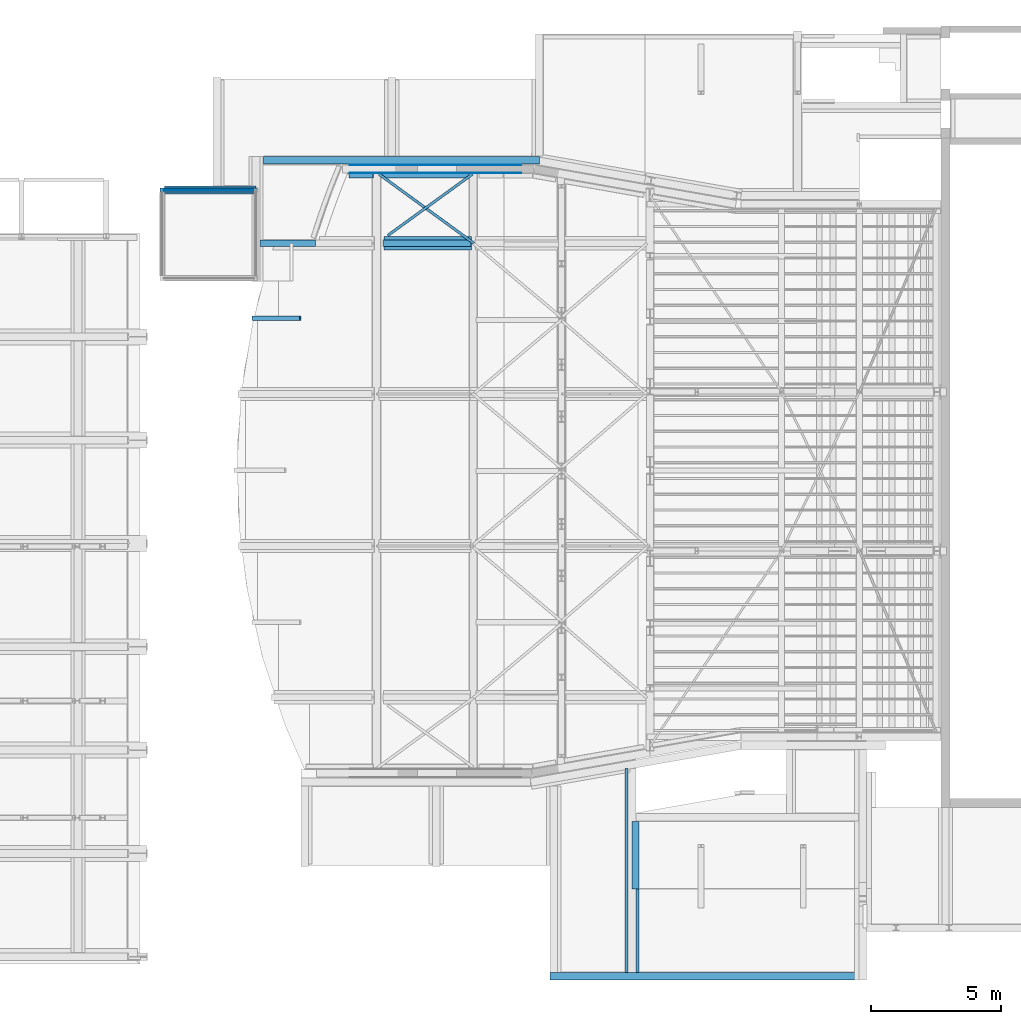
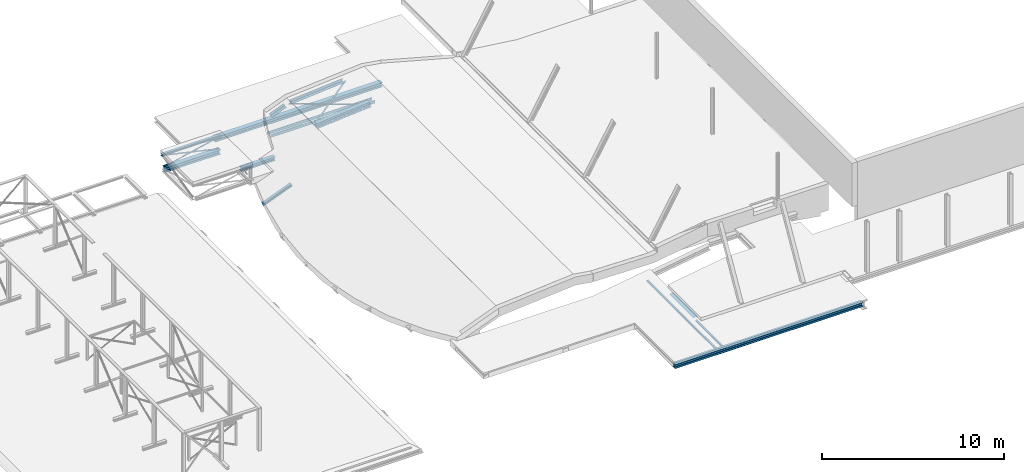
# One storey, part 23 of 50: 18 beams.
"""IFC2X3 building model written with IfcOpenShell, lengths in millimetres."""

from ifc_helpers import new_model, entity, si_unit, converted_unit, derived_unit, direction, frame, frame_2d, origin, origin_2d_with_axis, place, context, subcontext, project, spatial, polyline, circle_curve, parameter, trimmed, segment, composite_curve, rectangle, i_section, outline, extrude, source, transform, mapped, material, material_list, type_object, type_shapes, element, save


model = new_model("IFC2X3")

# Units and contexts
model_context = context("Model", 3, precision=0.01, world=origin(), true_north=direction((6.12303176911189e-17, 1.0)))
body_context = subcontext(model_context, "Body", "Model", "MODEL_VIEW")
ifc_project = project(units=[si_unit("LENGTHUNIT", "METRE", prefix="MILLI"), si_unit("AREAUNIT", "SQUARE_METRE", prefix="MILLI"), si_unit("VOLUMEUNIT", "CUBIC_METRE"), converted_unit("PLANEANGLEUNIT", "DEGREE", entity("IfcRatioMeasure", 0.0174532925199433), si_unit("PLANEANGLEUNIT", "RADIAN"), dimensions=[0, 0, 0, 0, 0, 0, 0]), si_unit("MASSUNIT", "GRAM", prefix="KILO"), derived_unit("MASSDENSITYUNIT", [(si_unit("MASSUNIT", "GRAM", prefix="KILO"), 1), (si_unit("LENGTHUNIT", "METRE"), -3)]), derived_unit("MOMENTOFINERTIAUNIT", [(si_unit("LENGTHUNIT", "METRE"), 4)]), si_unit("TIMEUNIT", "SECOND"), si_unit("FREQUENCYUNIT", "HERTZ"), si_unit("THERMODYNAMICTEMPERATUREUNIT", "DEGREE_CELSIUS"), derived_unit("THERMALTRANSMITTANCEUNIT", [(si_unit("MASSUNIT", "GRAM", prefix="KILO"), 1), (si_unit("THERMODYNAMICTEMPERATUREUNIT", "KELVIN"), -1), (si_unit("TIMEUNIT", "SECOND"), -3)]), derived_unit("VOLUMETRICFLOWRATEUNIT", [(si_unit("LENGTHUNIT", "METRE"), 3), (si_unit("TIMEUNIT", "SECOND"), -1)]), si_unit("ELECTRICCURRENTUNIT", "AMPERE"), si_unit("ELECTRICVOLTAGEUNIT", "VOLT"), si_unit("POWERUNIT", "WATT"), si_unit("FORCEUNIT", "NEWTON", prefix="KILO"), si_unit("ILLUMINANCEUNIT", "LUX"), si_unit("LUMINOUSFLUXUNIT", "LUMEN"), si_unit("LUMINOUSINTENSITYUNIT", "CANDELA"), derived_unit("USERDEFINED", [(si_unit("MASSUNIT", "GRAM", prefix="KILO"), -1), (si_unit("LENGTHUNIT", "METRE"), -2), (si_unit("TIMEUNIT", "SECOND"), 3), (si_unit("LUMINOUSFLUXUNIT", "LUMEN"), 1)]), derived_unit("LINEARVELOCITYUNIT", [(si_unit("LENGTHUNIT", "METRE"), 1), (si_unit("TIMEUNIT", "SECOND"), -1)]), si_unit("PRESSUREUNIT", "PASCAL"), derived_unit("USERDEFINED", [(si_unit("LENGTHUNIT", "METRE"), -2), (si_unit("MASSUNIT", "GRAM", prefix="KILO"), 1), (si_unit("TIMEUNIT", "SECOND"), -2)]), derived_unit("LINEARFORCEUNIT", [(si_unit("MASSUNIT", "GRAM", prefix="KILO"), 1), (si_unit("LENGTHUNIT", "METRE"), 1), (si_unit("TIMEUNIT", "SECOND"), -2), (si_unit("LENGTHUNIT", "METRE"), -1)]), derived_unit("PLANARFORCEUNIT", [(si_unit("MASSUNIT", "GRAM", prefix="KILO"), 1), (si_unit("LENGTHUNIT", "METRE"), 1), (si_unit("TIMEUNIT", "SECOND"), -2), (si_unit("LENGTHUNIT", "METRE"), -2)])], contexts=[model_context])

# Site, building, storey
site_placement = place(None, origin())
site = spatial("IfcSite", under=ifc_project, at=site_placement, Name="Theater aan de Parade", CompositionType="ELEMENT")
building_placement = place(site_placement, origin())
building = spatial("IfcBuilding", under=site, at=building_placement, Name="Theater aan de Parade", CompositionType="ELEMENT")
storey_placement = place(building_placement, frame((0.0, 0.0, 15820.0)))
storey = spatial("IfcBuildingStorey", under=building, at=storey_placement, Name="04 vierde verdieping", CompositionType="ELEMENT", Elevation=15820.0)

# Beams
ifc_material_1 = material(Name="00_PBT_MAT_staal_S355")
beam_type_1 = type_object("IfcBeamType", Name="28_PBT_SF_staal_H-profiel:S355_HE180A", PredefinedType="NOTDEFINED")
beam_1_placement = place(storey_placement, frame((40769.287115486, 38315.7620085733, -217.768607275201), z_axis=(-0.363251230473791, 0.0, 0.931691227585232), x_axis=(0.931691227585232, 0.0, 0.363251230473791)))
element("IfcBeam", 1, at=beam_1_placement, inside=storey, type_object=beam_type_1, material=ifc_material_1, Name="28_PBT_SF_staal_H-profiel:S355_HE180A", ObjectType="28_PBT_SF_staal_H-profiel:S355_HE180A", context=body_context, shape_type="SweptSolid", body=[
    extrude(i_section(OverallWidth=180.000000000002, OverallDepth=170.999999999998, WebThickness=6.00000000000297, FlangeThickness=9.49999999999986, FilletRadius=14.9999999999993, at=frame_2d((2.02504679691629e-12, 2.16715534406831e-12), x_axis=(0.0, 1.0))), frame((0.0, 0.0, -205.499999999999), z_axis=(1.0, 0.0, 0.0), x_axis=(0.0, 0.0, -1.0)), (0.0, 0.0, 1.0), 1960.00000000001),
])
beam_type_2 = type_object("IfcBeamType", Name="28_PBT_SF_staal_H-profiel (void):S355_HE300B", PredefinedType="NOTDEFINED")
beam_2_placement = place(storey_placement, frame((40963.8581275, 44395.0, 0.0)))
element("IfcBeam", 2, at=beam_2_placement, inside=storey, type_object=beam_type_2, material=ifc_material_1, Name="28_PBT_SF_staal_H-profiel (void):S355_HE300B", ObjectType="28_PBT_SF_staal_H-profiel (void):S355_HE300B", context=body_context, shape_type="SweptSolid", body=[
    extrude(i_section(OverallWidth=300.000000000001, OverallDepth=300.000000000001, WebThickness=10.9999999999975, FlangeThickness=18.9999999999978, FilletRadius=27.0000000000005, at=frame_2d((0.0, 0.0), x_axis=(0.0, 1.0))), frame((287.700000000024, 0.0, 165.0), z_axis=(1.0, 0.0, 0.0), x_axis=(0.0, 0.0, -1.0)), (0.0, 0.0, 1.0), 10632.3000471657),
])
beam_3_placement = place(storey_placement, frame((37439.358130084, 43250.0, 0.0)))
element("IfcBeam", 3, at=beam_3_placement, inside=storey, type_object=beam_type_2, material=ifc_material_1, Name="28_PBT_SF_staal_H-profiel (void):S355_HE300B", ObjectType="28_PBT_SF_staal_H-profiel (void):S355_HE300B", context=body_context, shape_type="SweptSolid", body=[
    extrude(outline(composite_curve([segment(polyline([(131.0, -150.0), (150.0, -150.0)]), True, "CONTINUOUS"), segment(polyline([(150.0, -150.0), (150.0, 150.0)]), True, "CONTINUOUS"), segment(polyline([(150.0, 150.0), (131.0, 150.0)]), True, "CONTINUOUS"), segment(polyline([(131.0, 150.0), (131.0, 32.5000000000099)]), True, "CONTINUOUS"), segment(trimmed(circle_curve(frame_2d((104.0, 32.5000000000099), x_axis=(1.0, 0.0)), 27.0000000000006), [parameter(270.0)], [parameter(0.0)], True, "PARAMETER"), False, "CONTINUOUS"), segment(polyline([(104.0, 5.50000000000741), (-104.0, 5.50000000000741)]), True, "CONTINUOUS"), segment(trimmed(circle_curve(frame_2d((-104.0, 32.5000000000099), x_axis=(0.0, -1.0)), 27.0000000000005), [parameter(270.0)], [parameter(0.0)], True, "PARAMETER"), False, "CONTINUOUS"), segment(polyline([(-131.0, 32.5000000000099), (-131.0, 150.0)]), True, "CONTINUOUS"), segment(polyline([(-131.0, 150.0), (-150.0, 150.0)]), True, "CONTINUOUS"), segment(polyline([(-150.0, 150.0), (-150.0, -150.0)]), True, "CONTINUOUS"), segment(polyline([(-150.0, -150.0), (-131.0, -150.0)]), True, "CONTINUOUS"), segment(polyline([(-131.0, -150.0), (-131.0, -32.4999999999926)]), True, "CONTINUOUS"), segment(trimmed(circle_curve(frame_2d((-104.0, -32.4999999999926), x_axis=(-1.0, 0.0)), 27.0000000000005), [parameter(270.0)], [parameter(0.0)], True, "PARAMETER"), False, "CONTINUOUS"), segment(polyline([(-104.0, -5.49999999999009), (104.0, -5.49999999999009)]), True, "CONTINUOUS"), segment(trimmed(circle_curve(frame_2d((104.0, -32.4999999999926), x_axis=(0.0, 1.0)), 27.0000000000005), [parameter(270.0)], [parameter(0.0)], True, "PARAMETER"), False, "CONTINUOUS"), segment(polyline([(131.0, -32.4999999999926), (131.0, -150.0)]), True, "CONTINUOUS")], self_intersect=False)), frame((0.0, 0.0, 165.0), z_axis=(1.0, 0.0, 0.0), x_axis=(0.0, 0.0, -1.0)), (0.0, 0.0, 1.0), 3524.49999741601),
])
beam_type_3 = type_object("IfcBeamType", Name="28_PBT_SF_staal_H-profiel (void):S355_HE280B", PredefinedType="NOTDEFINED")
beam_4_placement = place(storey_placement, frame((52289.5687866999, 12955.0, 0.0)))
element("IfcBeam", 4, at=beam_4_placement, inside=storey, type_object=beam_type_3, material=ifc_material_1, Name="28_PBT_SF_staal_H-profiel (void):S355_HE280B", ObjectType="28_PBT_SF_staal_H-profiel (void):S355_HE280B", context=body_context, shape_type="SweptSolid", body=[
    extrude(outline(composite_curve([segment(polyline([(122.0, -140.0), (140.0, -140.0)]), True, "CONTINUOUS"), segment(polyline([(140.0, -140.0), (140.0, 140.0)]), True, "CONTINUOUS"), segment(polyline([(140.0, 140.0), (122.0, 140.0)]), True, "CONTINUOUS"), segment(polyline([(122.0, 140.0), (122.0, 29.2500000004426)]), True, "CONTINUOUS"), segment(trimmed(circle_curve(frame_2d((98.0, 29.2500000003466), x_axis=(1.0, 0.0)), 24.0000000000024), [parameter(270.00000000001)], [parameter(0.0)], True, "PARAMETER"), False, "CONTINUOUS"), segment(polyline([(98.0, 5.25000000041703), (-98.0, 5.2499999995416)]), True, "CONTINUOUS"), segment(trimmed(circle_curve(frame_2d((-98.0, 29.2499999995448), x_axis=(0.0, -1.0)), 24.0000000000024), [parameter(270.00000000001)], [parameter(0.0)], True, "PARAMETER"), False, "CONTINUOUS"), segment(polyline([(-122.0, 29.2499999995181), (-122.0, 140.0)]), True, "CONTINUOUS"), segment(polyline([(-122.0, 140.0), (-140.0, 140.0)]), True, "CONTINUOUS"), segment(polyline([(-140.0, 140.0), (-140.0, -140.0)]), True, "CONTINUOUS"), segment(polyline([(-140.0, -140.0), (-122.0, -140.0)]), True, "CONTINUOUS"), segment(polyline([(-122.0, -140.0), (-122.0, -29.2500000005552)]), True, "CONTINUOUS"), segment(trimmed(circle_curve(frame_2d((-98.0, -29.2500000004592), x_axis=(-1.0, 0.0)), 24.000000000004), [parameter(270.000000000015)], [parameter(0.0)], True, "PARAMETER"), False, "CONTINUOUS"), segment(polyline([(-98.0, -5.25000000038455), (98.0, -5.24999999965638)]), True, "CONTINUOUS"), segment(trimmed(circle_curve(frame_2d((98.0, -29.2499999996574), x_axis=(0.0, 1.0)), 24.0000000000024), [parameter(270.00000000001)], [parameter(0.0)], True, "PARAMETER"), False, "CONTINUOUS"), segment(polyline([(122.0, -29.2499999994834), (122.0, -140.0)]), True, "CONTINUOUS")], self_intersect=False)), frame((0.0, 0.0, 155.0), z_axis=(1.0, 0.0, 0.0), x_axis=(0.0, 0.0, -1.0)), (0.0, 0.0, 1.0), 11953.2332888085),
])
beam_type_4 = type_object("IfcBeamType", Name="28_PBT_SF_staal_L-profiel:S355_L200x200x20", PredefinedType="NOTDEFINED")
beam_5_placement = place(storey_placement, frame((45768.8631319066, 43853.2, 1692.76368893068), z_axis=(-0.0796770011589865, 0.0, 0.996820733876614), x_axis=(0.996820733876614, 0.0, 0.0796770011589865)))
element("IfcBeam", 5, at=beam_5_placement, inside=storey, type_object=beam_type_4, material=ifc_material_1, Name="28_PBT_SF_staal_L-profiel:S355_L200x200x20", ObjectType="28_PBT_SF_staal_L-profiel:S355_L200x200x20", context=body_context, shape_type="SweptSolid", body=[
    extrude(outline(composite_curve([segment(polyline([(64.5555555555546, -124.444444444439), (75.5555555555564, -124.444444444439)]), True, "CONTINUOUS"), segment(polyline([(75.5555555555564, -124.444444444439), (75.5555555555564, 75.5555555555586)]), True, "CONTINUOUS"), segment(polyline([(75.5555555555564, 75.5555555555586), (-124.444444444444, 75.5555555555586)]), True, "CONTINUOUS"), segment(polyline([(-124.444444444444, 75.5555555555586), (-124.444444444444, 64.5555555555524)]), True, "CONTINUOUS"), segment(trimmed(circle_curve(frame_2d((-115.44444444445, 64.5555555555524), x_axis=(-1.0, 0.0)), 8.99999999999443), [parameter(0.0)], [parameter(90.0000000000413)], True, "PARAMETER"), True, "CONTINUOUS"), segment(polyline([(-115.444444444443, 55.5555555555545), (37.5555555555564, 55.5555555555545)]), True, "CONTINUOUS"), segment(trimmed(circle_curve(frame_2d((37.5555555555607, 37.5555555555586), x_axis=(0.0, 1.0)), 17.9999999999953), [parameter(269.999999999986)], [parameter(0.0)], True, "PARAMETER"), False, "CONTINUOUS"), segment(polyline([(55.5555555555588, 37.5555555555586), (55.5555555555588, -115.444444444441)]), True, "CONTINUOUS"), segment(trimmed(circle_curve(frame_2d((64.5555555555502, -115.444444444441), x_axis=(-1.0, 0.0)), 8.99999999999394), [parameter(0.0)], [parameter(90.0000000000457)], True, "PARAMETER"), True, "CONTINUOUS")], self_intersect=False)), frame((0.0, -18.7555555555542, -319.444444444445), z_axis=(1.0, 0.0, 0.0), x_axis=(0.0, 0.0, -1.0)), (0.0, 0.0, 1.0), 3360.00000000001),
])
beam_6_placement = place(storey_placement, frame((44414.0972034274, 43853.1999999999, 1203.28346457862), z_axis=(-0.363251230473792, 0.0, 0.931691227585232), x_axis=(0.931691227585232, 0.0, 0.363251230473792)))
element("IfcBeam", 6, at=beam_6_placement, inside=storey, type_object=beam_type_4, material=ifc_material_1, Name="28_PBT_SF_staal_L-profiel:S355_L200x200x20", ObjectType="28_PBT_SF_staal_L-profiel:S355_L200x200x20", context=body_context, shape_type="SweptSolid", body=[
    extrude(outline(composite_curve([segment(polyline([(64.5555555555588, -124.444444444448), (75.5555555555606, -124.444444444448)]), True, "CONTINUOUS"), segment(polyline([(75.5555555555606, -124.444444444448), (75.5555555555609, 75.5555555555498)]), True, "CONTINUOUS"), segment(polyline([(75.5555555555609, 75.5555555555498), (-124.444444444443, 75.5555555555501)]), True, "CONTINUOUS"), segment(polyline([(-124.444444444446, 75.5555555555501), (-124.444444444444, 64.5555555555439)]), True, "CONTINUOUS"), segment(trimmed(circle_curve(frame_2d((-115.444444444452, 64.5555555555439), x_axis=(-1.0, 0.0)), 8.99999999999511), [parameter(0.0)], [parameter(90.0000000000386)], True, "PARAMETER"), True, "CONTINUOUS"), segment(polyline([(-115.444444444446, 55.5555555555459), (37.5555555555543, 55.5555555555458)]), True, "CONTINUOUS"), segment(trimmed(circle_curve(frame_2d((37.5555555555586, 37.5555555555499), x_axis=(0.0, 1.0)), 17.9999999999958), [parameter(269.999999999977)], [parameter(0.0)], True, "PARAMETER"), False, "CONTINUOUS"), segment(polyline([(55.5555555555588, 37.5555555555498), (55.5555555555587, -115.44444444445)]), True, "CONTINUOUS"), segment(trimmed(circle_curve(frame_2d((64.5555555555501, -115.44444444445), x_axis=(-1.0, 0.0)), 8.99999999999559), [parameter(0.0)], [parameter(90.0000000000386)], True, "PARAMETER"), True, "CONTINUOUS")], self_intersect=False)), frame((0.0, -18.7555555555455, -319.444444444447), z_axis=(1.0, 0.0, 0.0), x_axis=(0.0, 0.0, -1.0)), (0.0, 0.0, 1.0), 1000.00000000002),
])
ifc_material_2 = material(Name="00_PBT_MAT_staal_S235")
beam_type_5 = type_object("IfcBeamType", Name="28_PBT_SF_staal_koker:S235_K80x120x6.3", PredefinedType="NOTDEFINED")
beam_7_placement = place(storey_placement, frame((55180.0, 20961.8498889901, 0.0), z_axis=(0.0, 0.0, 1.0), x_axis=(0.0, -1.0, 0.0)))
element("IfcBeam", 7, at=beam_7_placement, inside=storey, type_object=beam_type_5, material=ifc_material_2, Name="28_PBT_SF_staal_koker:S235_K80x120x6.3", ObjectType="28_PBT_SF_staal_koker:S235_K80x120x6.3", context=body_context, shape_type="SweptSolid", body=[
    extrude(outline(composite_curve([segment(polyline([(-30.5500000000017, -60.0), (30.5499999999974, -60.0)]), True, "CONTINUOUS"), segment(trimmed(circle_curve(frame_2d((30.5499999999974, -50.5500000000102), x_axis=(0.0, 1.0)), 9.45), [parameter(180.0)], [parameter(270.0)], True, "PARAMETER"), True, "CONTINUOUS"), segment(polyline([(40.0, -50.5500000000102), (40.0, 50.5499999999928)]), True, "CONTINUOUS"), segment(trimmed(circle_curve(frame_2d((30.5499999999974, 50.5499999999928), x_axis=(0.0, 1.0)), 9.45), [parameter(270.0)], [parameter(360.0)], True, "PARAMETER"), True, "CONTINUOUS"), segment(polyline([(30.5499999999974, 60.0), (-30.5500000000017, 60.0)]), True, "CONTINUOUS"), segment(trimmed(circle_curve(frame_2d((-30.5500000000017, 50.5499999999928), x_axis=(0.0, 1.0)), 9.45), [parameter(0.0)], [parameter(90.0000000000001)], True, "PARAMETER"), True, "CONTINUOUS"), segment(polyline([(-40.0, 50.5499999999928), (-40.0, -50.5500000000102)]), True, "CONTINUOUS"), segment(trimmed(circle_curve(frame_2d((-30.5500000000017, -50.5500000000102), x_axis=(0.0, 1.0)), 9.45), [parameter(90.0)], [parameter(180.0)], True, "PARAMETER"), True, "CONTINUOUS")], self_intersect=False), holes=[composite_curve([segment(polyline([(33.6999999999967, 47.3999999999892), (33.6999999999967, -47.4000000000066)]), True, "CONTINUOUS"), segment(trimmed(circle_curve(frame_2d((27.3999999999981, -47.4000000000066), x_axis=(0.0, 1.0)), 6.3), [parameter(180.0)], [parameter(270.0)], True, "PARAMETER"), False, "CONTINUOUS"), segment(polyline([(27.3999999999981, -53.7000000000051), (-27.4000000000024, -53.7000000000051)]), True, "CONTINUOUS"), segment(trimmed(circle_curve(frame_2d((-27.4000000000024, -47.4000000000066), x_axis=(0.0, 1.0)), 6.3), [parameter(90.0)], [parameter(180.0)], True, "PARAMETER"), False, "CONTINUOUS"), segment(polyline([(-33.7000000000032, -47.4000000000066), (-33.7000000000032, 47.3999999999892)]), True, "CONTINUOUS"), segment(trimmed(circle_curve(frame_2d((-27.4000000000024, 47.3999999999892), x_axis=(0.0, 1.0)), 6.3), [parameter(4.07110999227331e-13)], [parameter(90.0000000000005)], True, "PARAMETER"), False, "CONTINUOUS"), segment(polyline([(-27.4000000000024, 53.6999999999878), (27.3999999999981, 53.6999999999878)]), True, "CONTINUOUS"), segment(trimmed(circle_curve(frame_2d((27.3999999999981, 47.3999999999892), x_axis=(0.0, 1.0)), 6.3), [parameter(270.0)], [parameter(360.0)], True, "PARAMETER"), False, "CONTINUOUS")], self_intersect=False)]), frame((0.0, 60.0, -30.0), z_axis=(1.0, 0.0, 0.0), x_axis=(0.0, 0.0, 1.0)), (0.0, 0.0, 1.0), 7866.8498889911),
])
beam_8_placement = place(storey_placement, frame((55720.0, 16316.8033360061, 0.0), z_axis=(0.0, 0.0, 1.0), x_axis=(0.0, -1.0, 0.0)))
element("IfcBeam", 8, at=beam_8_placement, inside=storey, type_object=beam_type_5, material=ifc_material_2, Name="28_PBT_SF_staal_koker:S235_K80x120x6.3", ObjectType="28_PBT_SF_staal_koker:S235_K80x120x6.3", context=body_context, shape_type="SweptSolid", body=[
    extrude(outline(composite_curve([segment(trimmed(circle_curve(frame_2d((-50.5500000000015, -30.5500000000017), x_axis=(1.0, 0.0)), 9.45), [parameter(180.0)], [parameter(270.0)], True, "PARAMETER"), True, "CONTINUOUS"), segment(polyline([(-50.5500000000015, -40.0), (50.5500000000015, -40.0)]), True, "CONTINUOUS"), segment(trimmed(circle_curve(frame_2d((50.5500000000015, -30.5500000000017), x_axis=(1.0, 0.0)), 9.45), [parameter(270.0)], [parameter(0.0)], True, "PARAMETER"), True, "CONTINUOUS"), segment(polyline([(60.0, -30.5500000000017), (60.0, 30.5499999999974)]), True, "CONTINUOUS"), segment(trimmed(circle_curve(frame_2d((50.5500000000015, 30.5499999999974), x_axis=(1.0, 0.0)), 9.45), [parameter(3.56222124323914e-13)], [parameter(90.0000000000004)], True, "PARAMETER"), True, "CONTINUOUS"), segment(polyline([(50.5500000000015, 40.0), (-50.5500000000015, 40.0)]), True, "CONTINUOUS"), segment(trimmed(circle_curve(frame_2d((-50.5500000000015, 30.5499999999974), x_axis=(1.0, 0.0)), 9.45), [parameter(90.0000000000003)], [parameter(180.0)], True, "PARAMETER"), True, "CONTINUOUS"), segment(polyline([(-60.0, 30.5499999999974), (-60.0, -30.5500000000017)]), True, "CONTINUOUS")], self_intersect=False), holes=[composite_curve([segment(trimmed(circle_curve(frame_2d((47.3999999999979, 27.3999999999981), x_axis=(1.0, 0.0)), 6.3), [parameter(5.08888749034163e-14)], [parameter(90.0000000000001)], True, "PARAMETER"), False, "CONTINUOUS"), segment(polyline([(53.6999999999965, 27.3999999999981), (53.6999999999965, -27.4000000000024)]), True, "CONTINUOUS"), segment(trimmed(circle_curve(frame_2d((47.3999999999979, -27.4000000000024), x_axis=(1.0, 0.0)), 6.3), [parameter(269.999999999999)], [parameter(360.0)], True, "PARAMETER"), False, "CONTINUOUS"), segment(polyline([(47.3999999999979, -33.7000000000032), (-47.3999999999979, -33.7000000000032)]), True, "CONTINUOUS"), segment(trimmed(circle_curve(frame_2d((-47.3999999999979, -27.4000000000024), x_axis=(1.0, 0.0)), 6.3), [parameter(180.0)], [parameter(270.0)], True, "PARAMETER"), False, "CONTINUOUS"), segment(polyline([(-53.6999999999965, -27.4000000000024), (-53.6999999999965, 27.3999999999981)]), True, "CONTINUOUS"), segment(trimmed(circle_curve(frame_2d((-47.3999999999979, 27.3999999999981), x_axis=(1.0, 0.0)), 6.3), [parameter(89.9999999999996)], [parameter(180.0)], True, "PARAMETER"), False, "CONTINUOUS"), segment(polyline([(-47.3999999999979, 33.6999999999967), (47.3999999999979, 33.6999999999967)]), True, "CONTINUOUS")], self_intersect=False)]), frame((0.0, -60.0, -30.0), z_axis=(1.0, 0.0, 0.0), x_axis=(0.0, 1.0, 0.0)), (0.0, 0.0, 1.0), 3221.80333600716),
])
beam_type_6 = type_object("IfcBeamType", Name="28_PBT_SF_staal_H-profiel:S355_HE160A", PredefinedType="NOTDEFINED")
beam_9_placement = place(storey_placement, frame((41043.8581275, 43250.0, 0.0), z_axis=(0.0, 0.0, 1.0), x_axis=(-1.0, 0.0, 0.0)))
element("IfcBeam", 9, at=beam_9_placement, inside=storey, type_object=beam_type_6, material=ifc_material_1, Name="28_PBT_SF_staal_H-profiel:S355_HE160A", ObjectType="28_PBT_SF_staal_H-profiel:S355_HE160A", context=body_context, shape_type="SweptSolid", body=[
    extrude(outline(composite_curve([segment(polyline([(67.0, -80.0), (76.0, -80.0)]), True, "CONTINUOUS"), segment(polyline([(76.0, -80.0), (76.0, 80.0)]), True, "CONTINUOUS"), segment(polyline([(76.0, 80.0), (67.0, 80.0)]), True, "CONTINUOUS"), segment(polyline([(67.0, 80.0), (67.0, 18.0)]), True, "CONTINUOUS"), segment(trimmed(circle_curve(frame_2d((52.0, 18.0), x_axis=(1.0, 0.0)), 14.9999999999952), [parameter(269.999999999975)], [parameter(0.0)], True, "PARAMETER"), False, "CONTINUOUS"), segment(polyline([(52.0, 3.0), (-52.0, 3.0)]), True, "CONTINUOUS"), segment(trimmed(circle_curve(frame_2d((-52.0, 18.0), x_axis=(0.0, -1.0)), 14.9999999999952), [parameter(269.999999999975)], [parameter(0.0)], True, "PARAMETER"), False, "CONTINUOUS"), segment(polyline([(-67.0, 18.0), (-67.0, 80.0)]), True, "CONTINUOUS"), segment(polyline([(-67.0, 80.0), (-76.0, 80.0)]), True, "CONTINUOUS"), segment(polyline([(-76.0, 80.0), (-76.0, -80.0)]), True, "CONTINUOUS"), segment(polyline([(-76.0, -80.0), (-67.0, -80.0)]), True, "CONTINUOUS"), segment(polyline([(-67.0, -80.0), (-67.0, -18.0)]), True, "CONTINUOUS"), segment(trimmed(circle_curve(frame_2d((-52.0, -18.0), x_axis=(-1.0, 0.0)), 14.9999999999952), [parameter(269.999999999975)], [parameter(0.0)], True, "PARAMETER"), False, "CONTINUOUS"), segment(polyline([(-52.0, -3.0), (52.0, -3.0)]), True, "CONTINUOUS"), segment(trimmed(circle_curve(frame_2d((52.0, -18.0), x_axis=(0.0, 1.0)), 14.9999999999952), [parameter(269.999999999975)], [parameter(0.0)], True, "PARAMETER"), False, "CONTINUOUS"), segment(polyline([(67.0, -18.0), (67.0, -80.0)]), True, "CONTINUOUS")], self_intersect=False)), frame((0.0, 0.0, 1174.0), z_axis=(1.0, 0.0, 0.0), x_axis=(0.0, 0.0, -1.0)), (0.0, 0.0, 1.0), 3775.499997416),
])
ifc_material_3 = material(Name="00_PBT_MAT_staal")
beam_type_7 = type_object("IfcBeamType", Name="28_PBT_SF_staal_strip:strip 100x10", PredefinedType="NOTDEFINED")
beam_10_placement = place(storey_placement, frame((45404.1944183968, 44060.0, 1663.61530896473), z_axis=(-0.0520918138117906, 0.0379676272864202, 0.99792028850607), x_axis=(0.806444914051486, -0.587785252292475, 0.0644600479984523)))
element("IfcBeam", 10, at=beam_10_placement, inside=storey, type_object=beam_type_7, material=ifc_material_3, Name="28_PBT_SF_staal_strip:strip 100x10", ObjectType="28_PBT_SF_staal_strip:strip 100x10", context=body_context, shape_type="SweptSolid", body=[
    extrude(rectangle(XDim=10.0000000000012, YDim=99.9999999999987, at=frame_2d((6.03961325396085e-12, -3.45501405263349e-13), x_axis=(0.0, 1.0))), frame((334.565848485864, 19.0068801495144, -404.553752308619), z_axis=(1.0, 0.0, 0.0), x_axis=(0.0, -0.998898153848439, -0.0469305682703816)), (0.0, 0.0, 1.0), 4533.60092072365),
])
beam_11_placement = place(storey_placement, frame((49543.0136469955, 44060.0, 1994.43577975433), z_axis=(-0.0522876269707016, -0.0379036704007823, 0.997912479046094), x_axis=(-0.807956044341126, -0.585693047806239, -0.0645808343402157)))
element("IfcBeam", 11, at=beam_11_placement, inside=storey, type_object=beam_type_7, material=ifc_material_3, Name="28_PBT_SF_staal_strip:strip 100x10", ObjectType="28_PBT_SF_staal_strip:strip 100x10", context=body_context, shape_type="SweptSolid", body=[
    extrude(rectangle(XDim=9.99999999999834, YDim=100.000000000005, at=frame_2d((0.0, 0.0), x_axis=(0.0, 1.0))), frame((335.822853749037, 18.9393739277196, -404.556918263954), z_axis=(1.0, 0.0, 0.0), x_axis=(0.0, -0.998905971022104, -0.0467638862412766)), (0.0, 0.0, 1.0), 4032.45792626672),
])
ifc_material_4 = material(Name="00_PBT_MAT_Lucht")
ifc_material_list = material_list([ifc_material_1, ifc_material_4])
beam_type_8 = type_object("IfcBeamType", Name="28_PBT_SF_staal_H-profiel_met_onderplaat (void):S355_HE260A + onderplaat d=12", PredefinedType="BEAM", material=ifc_material_list)
shared_shape = source(origin(), body_context, "Body", "SweptSolid", [
    extrude(rectangle(XDim=12.0, YDim=510.0, at=frame_2d((6.51478870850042e-13, -1.4210854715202e-14), x_axis=(1.0, 0.0))), frame((-1558.63862269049, 0.0, -131.0), z_axis=(1.0, 0.0, 0.0), x_axis=(0.0, 0.0, -1.0)), (0.0, 0.0, 1.0), 3384.7994592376),
    extrude(i_section(OverallWidth=260.0, OverallDepth=250.0, WebThickness=7.49999999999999, FlangeThickness=12.4999999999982, FilletRadius=24.0, at=frame_2d((-4.12114786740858e-13, 0.0), x_axis=(0.0, 1.0))), frame((-1558.63862269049, 0.0, 0.0), z_axis=(1.0, 0.0, 0.0), x_axis=(0.0, 0.0, -1.0)), (0.0, 0.0, 1.0), 3384.7994592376),
])
type_shapes(beam_type_8, [shared_shape])
beam_12_placement = place(storey_placement, frame((47435.9727633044, 41198.5633673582, 1575.22028319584), z_axis=(-0.0796770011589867, 0.0, 0.996820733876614), x_axis=(0.996820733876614, 0.0, 0.0796770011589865)))
element("IfcBeam", 12, at=beam_12_placement, inside=storey, type_object=beam_type_8, material=ifc_material_1, Name="28_PBT_SF_staal_H-profiel_met_onderplaat (void):S355_HE260A + onderplaat d=12", ObjectType="28_PBT_SF_staal_H-profiel_met_onderplaat (void):S355_HE260A + onderplaat d=12", context=body_context, shape_type="MappedRepresentation", body=[
    mapped(shared_shape, transform((0.0, 0.0, 0.0), scale=1.0)),
])
beam_type_9 = type_object("IfcBeamType", Name="28_PBT_SF_staal_strip:strip 270x15", PredefinedType="NOTDEFINED")
beam_13_placement = place(storey_placement, frame((55456.7500000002, 18927.7872041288, 0.0), z_axis=(0.0, 0.0, 1.0), x_axis=(0.0, -1.0, 0.0)))
element("IfcBeam", 13, at=beam_13_placement, inside=storey, type_object=beam_type_9, material=ifc_material_3, Name="28_PBT_SF_staal_strip:strip 270x15", ObjectType="28_PBT_SF_staal_strip:strip 270x15", context=body_context, shape_type="SweptSolid", body=[
    extrude(rectangle(XDim=15.0000000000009, YDim=269.999999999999, at=frame_2d((0.0, -4.32009983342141e-12), x_axis=(1.0, 0.0))), frame((0.0, 135.0, 212.499999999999), z_axis=(1.0, 0.0, 0.0), x_axis=(0.0, 0.0, -1.0)), (0.0, 0.0, 1.0), 2610.9838681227),
])
beam_type_10 = type_object("IfcBeamType", Name="28_PBT_SF_staal_H-profiel:S355_HE260A", PredefinedType="NOTDEFINED")
beam_14_placement = place(storey_placement, frame((41113.8581275, 41198.5633673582, 0.0)))
element("IfcBeam", 14, at=beam_14_placement, inside=storey, type_object=beam_type_10, material=ifc_material_1, Name="28_PBT_SF_staal_H-profiel:S355_HE260A", ObjectType="28_PBT_SF_staal_H-profiel:S355_HE260A", context=body_context, shape_type="SweptSolid", body=[
    extrude(outline(composite_curve([segment(polyline([(112.499999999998, -130.0), (125.0, -130.0)]), True, "CONTINUOUS"), segment(polyline([(125.0, -130.0), (125.0, 130.0)]), True, "CONTINUOUS"), segment(polyline([(125.0, 130.0), (112.499999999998, 130.0)]), True, "CONTINUOUS"), segment(polyline([(112.499999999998, 130.0), (112.499999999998, 27.749999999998)]), True, "CONTINUOUS"), segment(trimmed(circle_curve(frame_2d((88.4999999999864, 27.7500000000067), x_axis=(1.0, 0.0)), 24.0000000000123), [parameter(270.000000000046)], [parameter(0.0)], True, "PARAMETER"), False, "CONTINUOUS"), segment(polyline([(88.4999999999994, 3.75000000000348), (-88.5000000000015, 3.75000000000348)]), True, "CONTINUOUS"), segment(trimmed(circle_curve(frame_2d((-88.4999999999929, 27.7500000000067), x_axis=(0.0, -1.0)), 24.0000000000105), [parameter(270.000000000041)], [parameter(0.0)], True, "PARAMETER"), False, "CONTINUOUS"), segment(polyline([(-112.500000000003, 27.7500000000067), (-112.500000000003, 130.0)]), True, "CONTINUOUS"), segment(polyline([(-112.500000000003, 130.0), (-125.0, 130.0)]), True, "CONTINUOUS"), segment(polyline([(-125.0, 130.0), (-125.0, -130.0)]), True, "CONTINUOUS"), segment(polyline([(-125.0, -130.0), (-112.5, -130.0)]), True, "CONTINUOUS"), segment(polyline([(-112.5, -130.0), (-112.5, -27.749999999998)]), True, "CONTINUOUS"), segment(trimmed(circle_curve(frame_2d((-88.4999999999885, -27.7500000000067), x_axis=(-1.0, 0.0)), 24.0000000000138), [parameter(270.000000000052)], [parameter(0.0)], True, "PARAMETER"), False, "CONTINUOUS"), segment(polyline([(-88.5000000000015, -3.74999999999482), (88.4999999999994, -3.74999999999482)]), True, "CONTINUOUS"), segment(trimmed(circle_curve(frame_2d((88.4999999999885, -27.7500000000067), x_axis=(0.0, 1.0)), 24.0000000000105), [parameter(270.000000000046)], [parameter(0.0)], True, "PARAMETER"), False, "CONTINUOUS"), segment(polyline([(112.499999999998, -27.749999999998), (112.499999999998, -130.0)]), True, "CONTINUOUS")], self_intersect=False)), frame((0.0, 0.0, 140.0), z_axis=(1.0, 0.0, 0.0), x_axis=(0.0, 0.0, -1.0)), (0.0, 0.0, 1.0), 2140.0),
])
beam_type_11 = type_object("IfcBeamType", Name="28_PBT_SF_staal_strip:strip 10x60", PredefinedType="NOTDEFINED")
beam_15_placement = place(storey_placement, frame((37423.0172318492, 43250.0, 311.29990649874), z_axis=(-0.220840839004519, 0.0, 0.975309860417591), x_axis=(0.975309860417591, 0.0, 0.220840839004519)))
element("IfcBeam", 15, at=beam_15_placement, inside=storey, type_object=beam_type_11, material=ifc_material_3, Name="28_PBT_SF_staal_strip:strip 10x60", ObjectType="28_PBT_SF_staal_strip:strip 10x60", context=body_context, shape_type="SweptSolid", body=[
    extrude(rectangle(XDim=60.0000000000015, YDim=9.99999999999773, at=origin_2d_with_axis()), frame((0.0, -5.0, 0.0), z_axis=(1.0, 0.0, 0.0), x_axis=(0.0, 0.0, -1.0)), (0.0, 0.0, 1.0), 3520.0),
])
beam_16_placement = place(storey_placement, frame((40894.6990257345, 43250.0, 311.299906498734), z_axis=(0.220840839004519, 0.0, 0.975309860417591), x_axis=(-0.975309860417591, 0.0, 0.220840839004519)))
element("IfcBeam", 16, at=beam_16_placement, inside=storey, type_object=beam_type_11, material=ifc_material_3, Name="28_PBT_SF_staal_strip:strip 10x60", ObjectType="28_PBT_SF_staal_strip:strip 10x60", context=body_context, shape_type="SweptSolid", body=[
    extrude(rectangle(XDim=59.9999999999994, YDim=9.99999999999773, at=frame_2d((-2.1138646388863e-12, 0.0), x_axis=(1.0, 0.0))), frame((0.0, -5.0, 0.0), z_axis=(1.0, 0.0, 0.0), x_axis=(0.0, 0.0, -1.0)), (0.0, 0.0, 1.0), 3520.0),
])
beam_type_12 = type_object("IfcBeamType", Name="28_PBT_SF_staal_strip:trekstrip 20x200", PredefinedType="NOTDEFINED")
beam_17_placement = place(storey_placement, frame((44570.0, 44210.0, 0.0)))
element("IfcBeam", 17, at=beam_17_placement, inside=storey, type_object=beam_type_12, material=ifc_material_3, Name="28_PBT_SF_staal_strip:trekstrip 20x200", ObjectType="28_PBT_SF_staal_strip:trekstrip 20x200", context=body_context, shape_type="SweptSolid", body=[
    extrude(rectangle(XDim=199.999999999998, YDim=19.9999999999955, at=frame_2d((1.08002495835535e-12, -2.59888111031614e-10), x_axis=(1.0, 0.0))), frame((0.0, 10.0, -525.0), z_axis=(1.0, 0.0, 0.0), x_axis=(0.0, 0.0, -1.0)), (0.0, 0.0, 1.0), 6614.68945200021),
])
beam_18_placement = place(storey_placement, frame((44570.0, 43910.0, 0.0)))
element("IfcBeam", 18, at=beam_18_placement, inside=storey, type_object=beam_type_12, material=ifc_material_3, Name="28_PBT_SF_staal_strip:trekstrip 20x200", ObjectType="28_PBT_SF_staal_strip:trekstrip 20x200", context=body_context, shape_type="SweptSolid", body=[
    extrude(rectangle(XDim=199.999999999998, YDim=19.9999999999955, at=frame_2d((1.08713038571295e-12, 4.33164615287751e-12), x_axis=(1.0, 0.0))), frame((0.0, -10.0, -525.0), z_axis=(1.0, 0.0, 0.0), x_axis=(0.0, 0.0, -1.0)), (0.0, 0.0, 1.0), 6614.68945200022),
])

save(model, "model.ifc")
